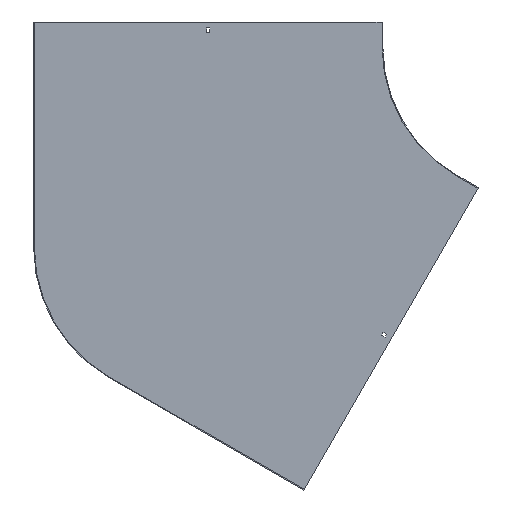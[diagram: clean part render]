
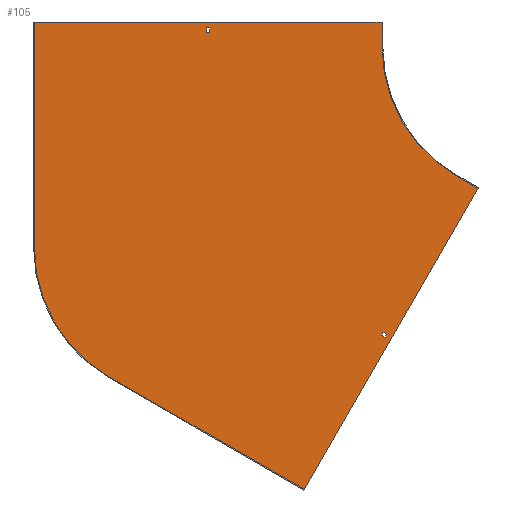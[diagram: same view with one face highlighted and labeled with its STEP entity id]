
A CAD part, front view. The second image highlights one B-rep face of the part: STEP entity #105.
In plain terms, the highlighted planar face has unit normal (0, -1, 0).
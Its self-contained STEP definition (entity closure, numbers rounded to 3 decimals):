
#6 = DIRECTION ( 'NONE',  ( 1., 0., 0. ) ) ;
#11 = FACE_BOUND ( 'NONE', #700, .T. ) ;
#27 = CARTESIAN_POINT ( 'NONE',  ( -1000., -1.5, -404.145 ) ) ;
#31 = CIRCLE ( 'NONE', #515, 300. ) ;
#35 = VERTEX_POINT ( 'NONE', #264 ) ;
#45 = CARTESIAN_POINT ( 'NONE',  ( 25.115, -1.5, -14.5 ) ) ;
#48 = LINE ( 'NONE', #842, #61 ) ;
#55 = VERTEX_POINT ( 'NONE', #803 ) ;
#57 = CARTESIAN_POINT ( 'NONE',  ( -301.51, -1.5, -580.231 ) ) ;
#60 = EDGE_CURVE ( 'NONE', #251, #511, #212, .T. ) ;
#61 = VECTOR ( 'NONE', #776, 1000. ) ;
#69 = ORIENTED_EDGE ( 'NONE', *, *, #60, .F. ) ;
#72 = CARTESIAN_POINT ( 'NONE',  ( -323.375, -1.5, -560.102 ) ) ;
#81 = DIRECTION ( 'NONE',  ( 0., 0., -1. ) ) ;
#82 = AXIS2_PLACEMENT_3D ( 'NONE', #304, #696, #362 ) ;
#101 = ORIENTED_EDGE ( 'NONE', *, *, #435, .F. ) ;
#105 = ADVANCED_FACE ( 'NONE', ( #261, #468, #11 ), #272, .T. ) ;
#108 = VECTOR ( 'NONE', #155, 1000. ) ;
#112 = DIRECTION ( 'NONE',  ( 0., 0., -1. ) ) ;
#117 = EDGE_CURVE ( 'NONE', #604, #363, #829, .T. ) ;
#120 = DIRECTION ( 'NONE',  ( 0.866, 0., -0.5 ) ) ;
#134 = CARTESIAN_POINT ( 'NONE',  ( -456.699, -1.5, -891.025 ) ) ;
#136 = CARTESIAN_POINT ( 'NONE',  ( -290.466, -1.5, -579.102 ) ) ;
#152 = DIRECTION ( 'NONE',  ( 0., 0., 1. ) ) ;
#155 = DIRECTION ( 'NONE',  ( -1., 0., 0. ) ) ;
#164 = VECTOR ( 'NONE', #751, 1000. ) ;
#165 = EDGE_LOOP ( 'NONE', ( #764, #614, #731, #428 ) ) ;
#166 = ORIENTED_EDGE ( 'NONE', *, *, #206, .F. ) ;
#168 = DIRECTION ( 'NONE',  ( -0.5, 0., -0.866 ) ) ;
#177 = ORIENTED_EDGE ( 'NONE', *, *, #723, .T. ) ;
#182 = VERTEX_POINT ( 'NONE', #331 ) ;
#194 = VERTEX_POINT ( 'NONE', #207 ) ;
#201 = LINE ( 'NONE', #490, #352 ) ;
#205 = CARTESIAN_POINT ( 'NONE',  ( -1000., -1.5, -404.145 ) ) ;
#206 = EDGE_CURVE ( 'NONE', #182, #268, #537, .T. ) ;
#207 = CARTESIAN_POINT ( 'NONE',  ( -646.75, -1.5, 29. ) ) ;
#208 = EDGE_CURVE ( 'NONE', #531, #604, #388, .T. ) ;
#212 = LINE ( 'NONE', #817, #256 ) ;
#215 = CARTESIAN_POINT ( 'NONE',  ( -653.25, -1.5, 0. ) ) ;
#249 = VECTOR ( 'NONE', #351, 1000. ) ;
#251 = VERTEX_POINT ( 'NONE', #134 ) ;
#256 = VECTOR ( 'NONE', #611, 1000. ) ;
#261 = FACE_BOUND ( 'NONE', #165, .T. ) ;
#264 = CARTESIAN_POINT ( 'NONE',  ( -150., -1.5, -259.808 ) ) ;
#267 = EDGE_CURVE ( 'NONE', #35, #694, #720, .T. ) ;
#268 = VERTEX_POINT ( 'NONE', #530 ) ;
#272 = PLANE ( 'NONE',  #82 ) ;
#277 = AXIS2_PLACEMENT_3D ( 'NONE', #323, #587, #112 ) ;
#283 = DIRECTION ( 'NONE',  ( 0., -1., 0. ) ) ;
#294 = CARTESIAN_POINT ( 'NONE',  ( 0., -1.5, 0. ) ) ;
#304 = CARTESIAN_POINT ( 'NONE',  ( 0., -1.5, 0. ) ) ;
#313 = VECTOR ( 'NONE', #805, 1000. ) ;
#314 = EDGE_CURVE ( 'NONE', #194, #779, #414, .T. ) ;
#323 = CARTESIAN_POINT ( 'NONE',  ( -700., -1.5, -404.145 ) ) ;
#331 = CARTESIAN_POINT ( 'NONE',  ( -300., -1.5, 50. ) ) ;
#335 = VECTOR ( 'NONE', #742, 1000. ) ;
#338 = LINE ( 'NONE', #215, #810 ) ;
#341 = CARTESIAN_POINT ( 'NONE',  ( -646.75, -1.5, 0. ) ) ;
#345 = LINE ( 'NONE', #801, #249 ) ;
#348 = CARTESIAN_POINT ( 'NONE',  ( -653.25, -1.5, 29. ) ) ;
#351 = DIRECTION ( 'NONE',  ( 0.5, 0., 0.866 ) ) ;
#352 = VECTOR ( 'NONE', #415, 1000. ) ;
#362 = DIRECTION ( 'NONE',  ( 0., 0., -1. ) ) ;
#363 = VERTEX_POINT ( 'NONE', #57 ) ;
#365 = CARTESIAN_POINT ( 'NONE',  ( -1000., -1.5, 50. ) ) ;
#371 = CARTESIAN_POINT ( 'NONE',  ( -298.26, -1.5, -574.602 ) ) ;
#375 = VECTOR ( 'NONE', #602, 1000. ) ;
#379 = VERTEX_POINT ( 'NONE', #581 ) ;
#388 = LINE ( 'NONE', #72, #335 ) ;
#392 = CIRCLE ( 'NONE', #277, 300. ) ;
#399 = LINE ( 'NONE', #341, #164 ) ;
#401 = ORIENTED_EDGE ( 'NONE', *, *, #819, .F. ) ;
#414 = LINE ( 'NONE', #555, #108 ) ;
#415 = DIRECTION ( 'NONE',  ( 0.866, 0., -0.5 ) ) ;
#428 = ORIENTED_EDGE ( 'NONE', *, *, #117, .F. ) ;
#434 = ORIENTED_EDGE ( 'NONE', *, *, #267, .F. ) ;
#435 = EDGE_CURVE ( 'NONE', #511, #567, #392, .T. ) ;
#449 = ORIENTED_EDGE ( 'NONE', *, *, #476, .F. ) ;
#464 = ORIENTED_EDGE ( 'NONE', *, *, #743, .F. ) ;
#467 = CARTESIAN_POINT ( 'NONE',  ( -150., -1.5, -259.808 ) ) ;
#468 = FACE_OUTER_BOUND ( 'NONE', #513, .T. ) ;
#476 = EDGE_CURVE ( 'NONE', #268, #35, #31, .T. ) ;
#479 = VECTOR ( 'NONE', #6, 1000. ) ;
#490 = CARTESIAN_POINT ( 'NONE',  ( -326.625, -1.5, -565.731 ) ) ;
#502 = EDGE_CURVE ( 'NONE', #712, #531, #345, .T. ) ;
#503 = CARTESIAN_POINT ( 'NONE',  ( -105.949, -1.5, -283.509 ) ) ;
#511 = VERTEX_POINT ( 'NONE', #816 ) ;
#513 = EDGE_LOOP ( 'NONE', ( #464, #553, #101, #69, #401, #434, #449, #166 ) ) ;
#515 = AXIS2_PLACEMENT_3D ( 'NONE', #294, #283, #81 ) ;
#530 = CARTESIAN_POINT ( 'NONE',  ( -300., -1.5, 0. ) ) ;
#531 = VERTEX_POINT ( 'NONE', #136 ) ;
#536 = EDGE_CURVE ( 'NONE', #379, #194, #399, .T. ) ;
#537 = LINE ( 'NONE', #661, #375 ) ;
#548 = CARTESIAN_POINT ( 'NONE',  ( -293.716, -1.5, -584.731 ) ) ;
#552 = LINE ( 'NONE', #27, #313 ) ;
#553 = ORIENTED_EDGE ( 'NONE', *, *, #726, .F. ) ;
#555 = CARTESIAN_POINT ( 'NONE',  ( 0., -1.5, 29. ) ) ;
#559 = VECTOR ( 'NONE', #168, 1000. ) ;
#567 = VERTEX_POINT ( 'NONE', #205 ) ;
#577 = LINE ( 'NONE', #503, #685 ) ;
#581 = CARTESIAN_POINT ( 'NONE',  ( -646.75, -1.5, 38. ) ) ;
#587 = DIRECTION ( 'NONE',  ( 0., 1., 0. ) ) ;
#599 = CARTESIAN_POINT ( 'NONE',  ( -1001.5, -1.5, 50. ) ) ;
#602 = DIRECTION ( 'NONE',  ( 0., 0., -1. ) ) ;
#604 = VERTEX_POINT ( 'NONE', #371 ) ;
#611 = DIRECTION ( 'NONE',  ( -0.866, 0., 0.5 ) ) ;
#614 = ORIENTED_EDGE ( 'NONE', *, *, #502, .F. ) ;
#621 = ORIENTED_EDGE ( 'NONE', *, *, #826, .T. ) ;
#633 = VERTEX_POINT ( 'NONE', #365 ) ;
#637 = DIRECTION ( 'NONE',  ( -0.5, 0., -0.866 ) ) ;
#661 = CARTESIAN_POINT ( 'NONE',  ( -300., -1.5, 50. ) ) ;
#685 = VECTOR ( 'NONE', #637, 1000. ) ;
#694 = VERTEX_POINT ( 'NONE', #818 ) ;
#696 = DIRECTION ( 'NONE',  ( 0., -1., 0. ) ) ;
#700 = EDGE_LOOP ( 'NONE', ( #621, #845, #740, #177 ) ) ;
#712 = VERTEX_POINT ( 'NONE', #548 ) ;
#719 = VECTOR ( 'NONE', #120, 1000. ) ;
#720 = LINE ( 'NONE', #467, #719 ) ;
#723 = EDGE_CURVE ( 'NONE', #779, #55, #338, .T. ) ;
#726 = EDGE_CURVE ( 'NONE', #567, #633, #552, .T. ) ;
#727 = EDGE_CURVE ( 'NONE', #363, #712, #201, .T. ) ;
#731 = ORIENTED_EDGE ( 'NONE', *, *, #727, .F. ) ;
#740 = ORIENTED_EDGE ( 'NONE', *, *, #314, .T. ) ;
#742 = DIRECTION ( 'NONE',  ( -0.866, 0., 0.5 ) ) ;
#743 = EDGE_CURVE ( 'NONE', #633, #182, #744, .T. ) ;
#744 = LINE ( 'NONE', #599, #479 ) ;
#751 = DIRECTION ( 'NONE',  ( 0., 0., -1. ) ) ;
#764 = ORIENTED_EDGE ( 'NONE', *, *, #208, .F. ) ;
#776 = DIRECTION ( 'NONE',  ( 1., 0., 0. ) ) ;
#779 = VERTEX_POINT ( 'NONE', #348 ) ;
#801 = CARTESIAN_POINT ( 'NONE',  ( 32.909, -1.5, -19. ) ) ;
#803 = CARTESIAN_POINT ( 'NONE',  ( -653.25, -1.5, 38. ) ) ;
#805 = DIRECTION ( 'NONE',  ( 0., 0., 1. ) ) ;
#810 = VECTOR ( 'NONE', #152, 1000. ) ;
#816 = CARTESIAN_POINT ( 'NONE',  ( -850., -1.5, -663.953 ) ) ;
#817 = CARTESIAN_POINT ( 'NONE',  ( -456.699, -1.5, -891.025 ) ) ;
#818 = CARTESIAN_POINT ( 'NONE',  ( -106.699, -1.5, -284.808 ) ) ;
#819 = EDGE_CURVE ( 'NONE', #694, #251, #577, .T. ) ;
#826 = EDGE_CURVE ( 'NONE', #55, #379, #48, .T. ) ;
#829 = LINE ( 'NONE', #45, #559 ) ;
#842 = CARTESIAN_POINT ( 'NONE',  ( 0., -1.5, 38. ) ) ;
#845 = ORIENTED_EDGE ( 'NONE', *, *, #536, .T. ) ;
